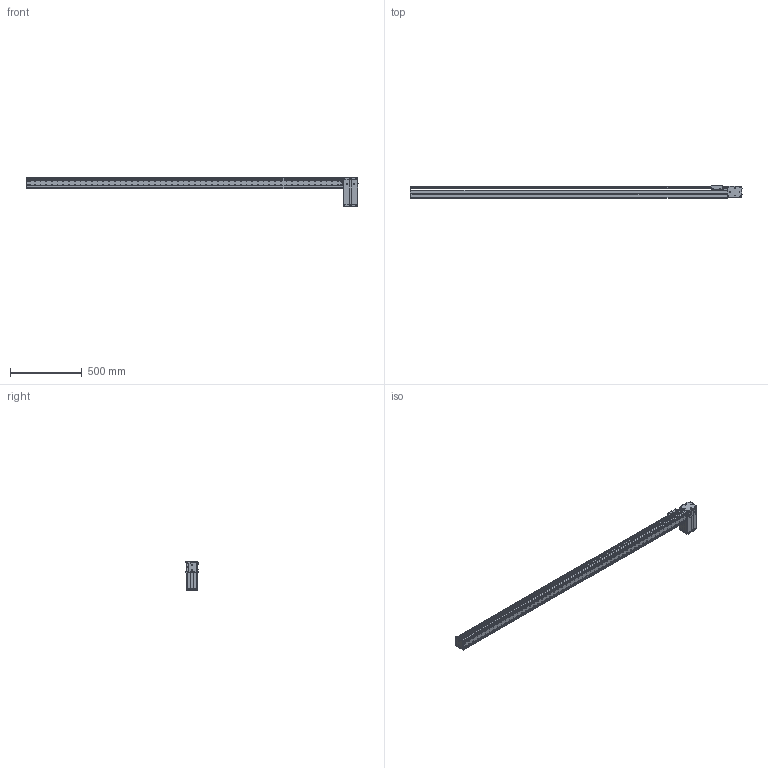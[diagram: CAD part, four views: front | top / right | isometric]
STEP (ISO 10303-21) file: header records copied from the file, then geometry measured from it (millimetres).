
FILE_DESCRIPTION((''),'2;1');
FILE_NAME('BE10_-BL-S_N-L5_IGS_PRT','2017-06-18T',(' '),(''),'PRO/ENGINEER BY PARAMETRIC TECHNOLOGY CORPORATION, 2015030','PRO/ENGINEER BY PARAMETRIC TECHNOLOGY CORPORATION, 2015030','');
FILE_SCHEMA(('CONFIG_CONTROL_DESIGN'));
Products named in the file (1): BE10_-BL-S_N-L5_IGS_PRT
Bounding box: 2320.8 x 85 x 200.22 mm (x, y, z)
Volume: 2949781.9 mm3; surface area: 2094937.9 mm2
Topology: 5 solids, 189 shells, 2363 faces, 6501 edges, 4347 vertices
Faces by surface type: cylinder 1131, plane 1073, cone 103, sphere 28, torus 25, bspline 3
Entity records: 77925 total; most frequent: CARTESIAN_POINT 16188, DIRECTION 13159, ORIENTED_EDGE 12178, EDGE_CURVE 6447, AXIS2_PLACEMENT_3D 4840, VERTEX_POINT 4347, VECTOR 3479, LINE 3479
